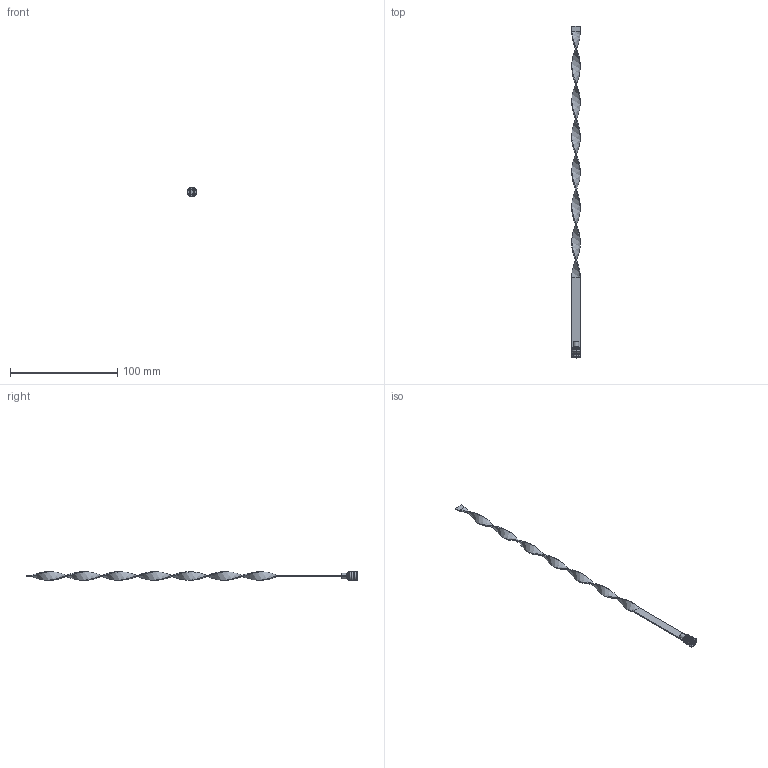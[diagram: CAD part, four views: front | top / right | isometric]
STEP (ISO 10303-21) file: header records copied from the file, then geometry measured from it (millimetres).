
FILE_DESCRIPTION (( 'STEP AP203' ), '1' );
FILE_NAME ('RLS-8Fx300.STEP', '2015-12-04T14:31:21', ( 'Balzi' ), ( '' ), 'SwSTEP 2.0', 'SolidWorks 2015', '' );
FILE_SCHEMA (( 'CONFIG_CONTROL_DESIGN' ));
Length unit declared in the file: millimetre
Products named in the file (1): RLS-8Fx300
Bounding box: 9 x 309.5 x 9 mm (x, y, z)
Volume: 2832.2 mm3; surface area: 5928.4 mm2
Topology: 1 solids, 1 shells, 80 faces, 187 edges, 113 vertices
Faces by surface type: plane 34, cone 17, cylinder 17, torus 8, bspline 4
Entity records: 4857 total; most frequent: CARTESIAN_POINT 2967, DIRECTION 386, ORIENTED_EDGE 374, EDGE_CURVE 187, AXIS2_PLACEMENT_3D 144, VERTEX_POINT 113, VECTOR 98, LINE 98
